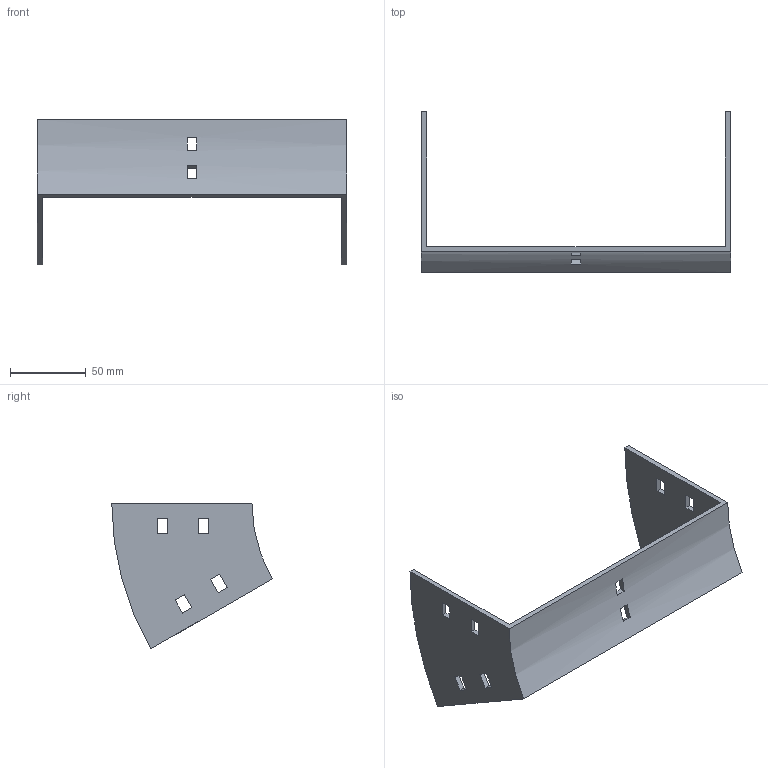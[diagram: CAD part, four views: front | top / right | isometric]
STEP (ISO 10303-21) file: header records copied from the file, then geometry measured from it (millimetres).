
FILE_DESCRIPTION (( 'STEP AP214' ), '1' );
FILE_NAME ('35B1I200.step', '2025-02-21T09:26:57', ( '' ), ( '' ), 'SwSTEP 2.0', 'SolidWorks 2023', '' );
FILE_SCHEMA (( 'AUTOMOTIVE_DESIGN' ));
Length unit declared in the file: millimetre
Products named in the file (1): 35B1I200
Bounding box: 204 x 105.9 x 96.25 mm (x, y, z)
Volume: 83941.9 mm3; surface area: 52512 mm2
Topology: 1 solids, 1 shells, 50 faces, 144 edges, 96 vertices
Faces by surface type: plane 46, cylinder 4
Entity records: 1687 total; most frequent: CARTESIAN_POINT 291, ORIENTED_EDGE 288, DIRECTION 262, EDGE_CURVE 144, LINE 128, VECTOR 128, VERTEX_POINT 96, EDGE_LOOP 70
